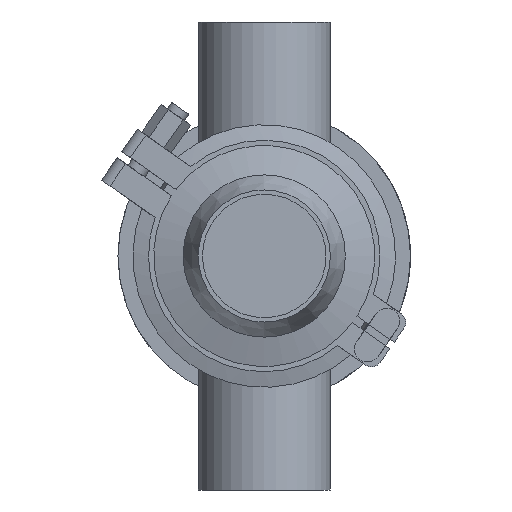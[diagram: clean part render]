
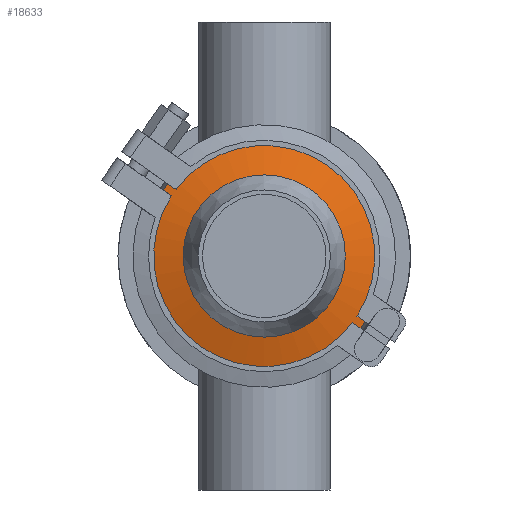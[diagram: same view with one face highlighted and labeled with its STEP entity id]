
A CAD part, front view. The second image highlights one B-rep face of the part: STEP entity #18633.
In plain terms, the highlighted conical face has half-angle 75 degrees and reference radius 46.5 mm.
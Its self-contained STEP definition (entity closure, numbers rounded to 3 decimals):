
#786 = CIRCLE ( 'NONE', #16783, 31.196 ) ;
#1130 = DIRECTION ( 'NONE',  ( 0., 0., 1. ) ) ;
#1486 = AXIS2_PLACEMENT_3D ( 'NONE', #2161, #16256, #16555 ) ;
#2161 = CARTESIAN_POINT ( 'NONE',  ( 0., 5.5, 0. ) ) ;
#2718 = CARTESIAN_POINT ( 'NONE',  ( 0., 1.399, 0. ) ) ;
#3326 = CONICAL_SURFACE ( 'NONE', #7301, 46.5, 1.309 ) ;
#4209 = VERTEX_POINT ( 'NONE', #10649 ) ;
#7301 = AXIS2_PLACEMENT_3D ( 'NONE', #12398, #18892, #20457 ) ;
#7681 = EDGE_CURVE ( 'NONE', #4209, #4209, #786, .T. ) ;
#7909 = EDGE_CURVE ( 'NONE', #13874, #13874, #14797, .T. ) ;
#10649 = CARTESIAN_POINT ( 'NONE',  ( 0., 1.399, 31.196 ) ) ;
#12398 = CARTESIAN_POINT ( 'NONE',  ( 0., 5.5, 0. ) ) ;
#13874 = VERTEX_POINT ( 'NONE', #18677 ) ;
#14082 = FACE_OUTER_BOUND ( 'NONE', #17982, .T. ) ;
#14797 = CIRCLE ( 'NONE', #1486, 46.5 ) ;
#15416 = DIRECTION ( 'NONE',  ( 0., 1., 0. ) ) ;
#15653 = ORIENTED_EDGE ( 'NONE', *, *, #7909, .F. ) ;
#15872 = ORIENTED_EDGE ( 'NONE', *, *, #7681, .T. ) ;
#16256 = DIRECTION ( 'NONE',  ( 0., 1., 0. ) ) ;
#16555 = DIRECTION ( 'NONE',  ( 0., 0., 1. ) ) ;
#16783 = AXIS2_PLACEMENT_3D ( 'NONE', #2718, #15416, #1130 ) ;
#17982 = EDGE_LOOP ( 'NONE', ( #15653 ) ) ;
#18633 = ADVANCED_FACE ( 'NONE', ( #18672, #14082 ), #3326, .T. ) ;
#18672 = FACE_BOUND ( 'NONE', #18716, .T. ) ;
#18677 = CARTESIAN_POINT ( 'NONE',  ( 0., 5.5, 46.5 ) ) ;
#18716 = EDGE_LOOP ( 'NONE', ( #15872 ) ) ;
#18892 = DIRECTION ( 'NONE',  ( 0., 1., 0. ) ) ;
#20457 = DIRECTION ( 'NONE',  ( 0., 0., 1. ) ) ;
